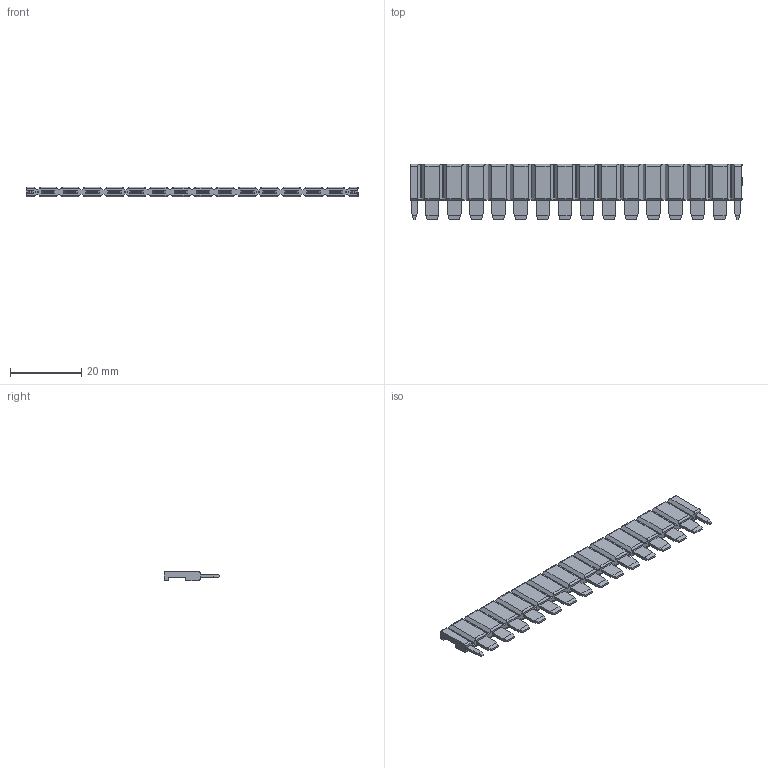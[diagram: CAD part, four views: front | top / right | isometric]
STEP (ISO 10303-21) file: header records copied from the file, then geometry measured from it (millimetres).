
FILE_DESCRIPTION(('STEP AP214'),'2;1');
FILE_NAME('Assieme Pettine---skin.stp','2010-04-13T16:45:11',(''),(''),'2007.1.106','THINKDESIGN','');
FILE_SCHEMA(('AUTOMOTIVE_DESIGN'));
Products named in the file (1): None
Bounding box: 93 x 15.5 x 2.8 mm (x, y, z)
Surface area: 3405.3 mm2 (no closed solid volume)
Topology: 0 solids, 0 shells, 995 faces, 5492 edges, 5492 vertices
Faces by surface type: plane 694, bspline 226, cylinder 75
Full cylindrical faces by diameter (mm): 4 x1
Entity records: 59190 total; most frequent: CARTESIAN_POINT 20994, DIRECTION 5899, COMPOSITE_CURVE_SEGMENT 5492, TRIMMED_CURVE 4329, VECTOR 4297, LINE 4297, OUTER_BOUNDARY_CURVE 995, CURVE_BOUNDED_SURFACE 995
